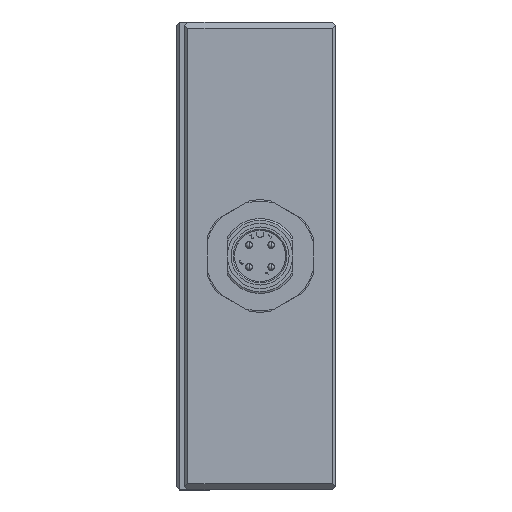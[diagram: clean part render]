
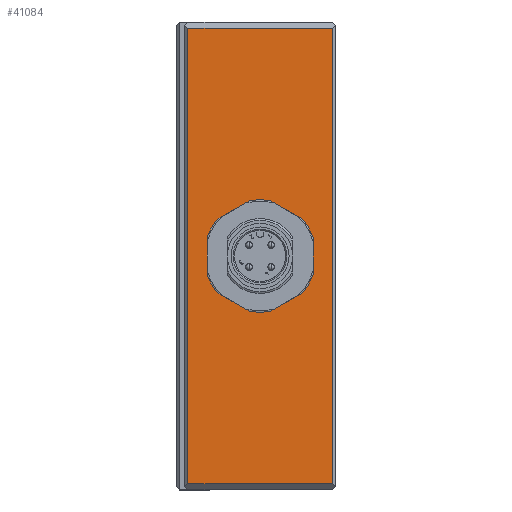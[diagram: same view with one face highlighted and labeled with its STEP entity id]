
A CAD part, left-side view. The second image highlights one B-rep face of the part: STEP entity #41084.
In plain terms, the highlighted planar face has unit normal (-1, 0, 0).
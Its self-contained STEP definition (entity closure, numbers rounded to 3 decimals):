
#25 = LINE ( 'NONE', #4301, #42687 ) ;
#3838 = DIRECTION ( 'NONE',  ( 0., 0., 1. ) ) ;
#4301 = CARTESIAN_POINT ( 'NONE',  ( -75., 23.6, -37.5 ) ) ;
#5040 = LINE ( 'NONE', #60206, #14058 ) ;
#7992 = LINE ( 'NONE', #40721, #39294 ) ;
#8460 = VECTOR ( 'NONE', #32740, 1000. ) ;
#9657 = ORIENTED_EDGE ( 'NONE', *, *, #51670, .T. ) ;
#13169 = FACE_OUTER_BOUND ( 'NONE', #28058, .T. ) ;
#13475 = DIRECTION ( 'NONE',  ( 0., 0., -1. ) ) ;
#14058 = VECTOR ( 'NONE', #3838, 1000. ) ;
#14802 = ORIENTED_EDGE ( 'NONE', *, *, #50830, .T. ) ;
#16095 = EDGE_CURVE ( 'NONE', #49167, #42248, #7992, .T. ) ;
#20077 = LINE ( 'NONE', #38731, #8460 ) ;
#25936 = VERTEX_POINT ( 'NONE', #32016 ) ;
#27420 = VERTEX_POINT ( 'NONE', #35647 ) ;
#28058 = EDGE_LOOP ( 'NONE', ( #14802, #49018, #46679, #9657 ) ) ;
#32016 = CARTESIAN_POINT ( 'NONE',  ( -75., 0.5, -36.5 ) ) ;
#32740 = DIRECTION ( 'NONE',  ( 0., -1., 0. ) ) ;
#35227 = DIRECTION ( 'NONE',  ( 0., 1., 0. ) ) ;
#35647 = CARTESIAN_POINT ( 'NONE',  ( -75., 23.6, -36.5 ) ) ;
#37295 = PLANE ( 'NONE',  #53631 ) ;
#38731 = CARTESIAN_POINT ( 'NONE',  ( -75., 25.4, -36.5 ) ) ;
#39294 = VECTOR ( 'NONE', #35227, 1000. ) ;
#39699 = CARTESIAN_POINT ( 'NONE',  ( -75., 0.5, 36.5 ) ) ;
#40721 = CARTESIAN_POINT ( 'NONE',  ( -75., 25.4, 36.5 ) ) ;
#41084 = ADVANCED_FACE ( 'NONE', ( #13169 ), #37295, .F. ) ;
#42248 = VERTEX_POINT ( 'NONE', #53871 ) ;
#42687 = VECTOR ( 'NONE', #51784, 1000. ) ;
#46679 = ORIENTED_EDGE ( 'NONE', *, *, #16095, .T. ) ;
#49018 = ORIENTED_EDGE ( 'NONE', *, *, #53233, .T. ) ;
#49167 = VERTEX_POINT ( 'NONE', #39699 ) ;
#50830 = EDGE_CURVE ( 'NONE', #27420, #25936, #20077, .T. ) ;
#51670 = EDGE_CURVE ( 'NONE', #42248, #27420, #25, .T. ) ;
#51784 = DIRECTION ( 'NONE',  ( 0., 0., -1. ) ) ;
#53233 = EDGE_CURVE ( 'NONE', #25936, #49167, #5040, .T. ) ;
#53631 = AXIS2_PLACEMENT_3D ( 'NONE', #55733, #55437, #13475 ) ;
#53871 = CARTESIAN_POINT ( 'NONE',  ( -75., 23.6, 36.5 ) ) ;
#55437 = DIRECTION ( 'NONE',  ( 1., 0., 0. ) ) ;
#55733 = CARTESIAN_POINT ( 'NONE',  ( -75., 25.4, -37.5 ) ) ;
#60206 = CARTESIAN_POINT ( 'NONE',  ( -75., 0.5, -37.5 ) ) ;
